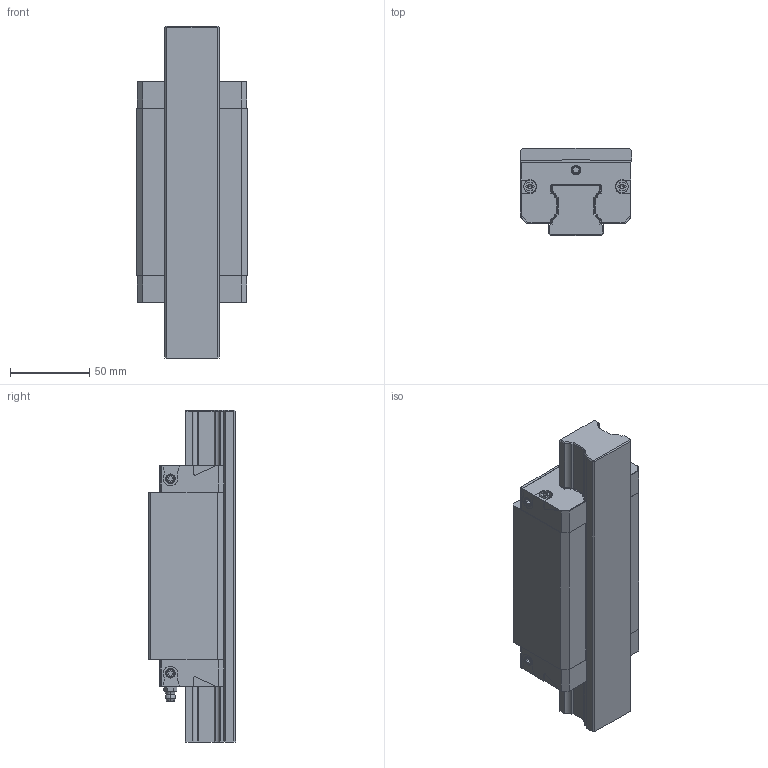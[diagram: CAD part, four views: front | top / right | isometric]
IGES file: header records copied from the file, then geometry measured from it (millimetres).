
Start section: 3D InterOp IGES (v. 2019 1.0.2), Spatial Corp. Copyright (c) 1999-2017.
Global section: file name: R1624_size35.igs; native system: Spatial Corp.; preprocessor: 3D InterOp GENERIC/IGES 3.0; author: Noname; organization: Noname; date: 20220629.124924; units: millimetre
Bounding box: 70 x 55 x 209 mm (x, y, z)
Surface area: 97604.5 mm2 (no closed solid volume)
Topology: 0 solids, 0 shells, 521 faces, 2700 edges, 2670 vertices
Faces by surface type: extrusion 288, revolution 233
